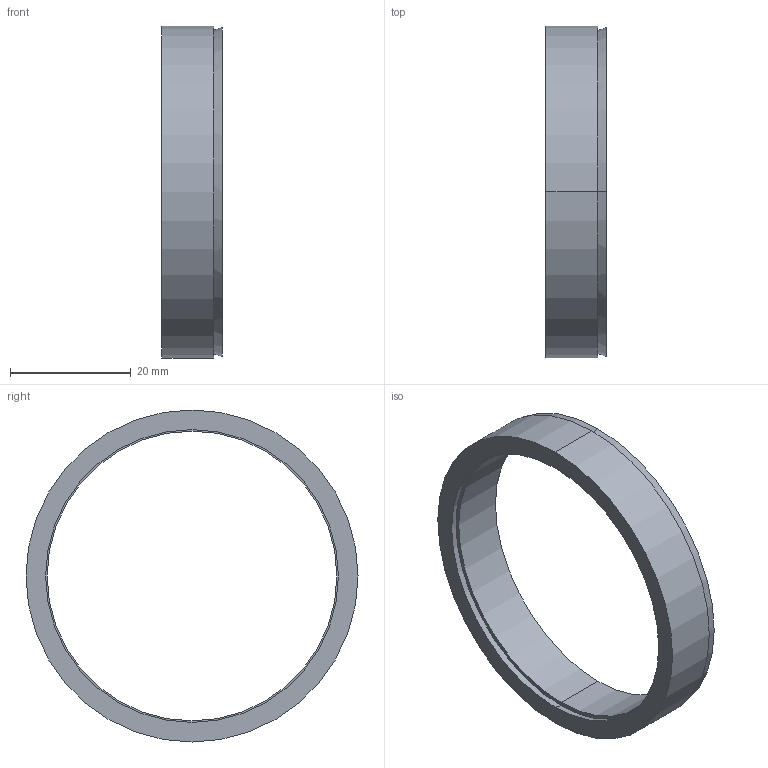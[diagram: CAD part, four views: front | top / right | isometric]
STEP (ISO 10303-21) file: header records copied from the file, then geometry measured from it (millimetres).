
FILE_DESCRIPTION (( 'STEP AP203' ), '1' );
FILE_NAME ('R-48-55.STEP', '2017-11-06T03:13:50', ( 'MYCOM' ), ( '' ), 'SwSTEP 2.0', 'SolidWorks 2015', '' );
FILE_SCHEMA (( 'CONFIG_CONTROL_DESIGN' ));
Length unit declared in the file: millimetre
Products named in the file (1): R-48-55
Bounding box: 10 x 55 x 55 mm (x, y, z)
Surface area: 6956.6 mm2 (no closed solid volume)
Topology: 0 solids, 2 shells, 12 faces, 24 edges, 16 vertices
Faces by surface type: cylinder 4, cone 4, plane 4
Entity records: 406 total; most frequent: DIRECTION 66, CARTESIAN_POINT 53, ORIENTED_EDGE 48, AXIS2_PLACEMENT_3D 29, EDGE_CURVE 24, CIRCLE 16, EDGE_LOOP 16, VERTEX_POINT 16
